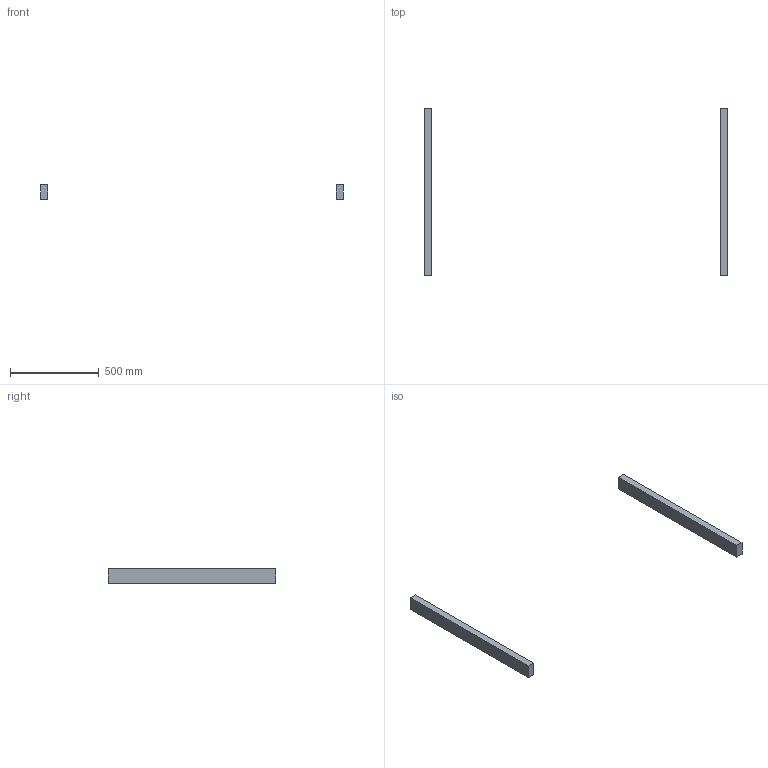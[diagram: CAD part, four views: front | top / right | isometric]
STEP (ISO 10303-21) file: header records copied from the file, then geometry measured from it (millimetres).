
FILE_DESCRIPTION(/* description */ (''),/* implementation_level */ '2;1');
FILE_NAME(/* name */ '2.frame-gantry#2.1#HFS5-4080-940',/* time_stamp */ '2014-12-01T20:11:35+01:00',/* author */ (''),/* organization */ (''),/* preprocessor_version */ 'ST-DEVELOPER v14',/* originating_system */ '',/* authorisation */ '');
FILE_SCHEMA (('AUTOMOTIVE_DESIGN'));
Length unit declared in the file: millimetre
Products named in the file (1): Document
Bounding box: 1700 x 940 x 80 mm (x, y, z)
Volume: 6016000 mm3; surface area: 464000 mm2
Topology: 2 solids, 2 shells, 12 faces, 24 edges, 16 vertices
Faces by surface type: plane 12
Entity records: 571 total; most frequent: CARTESIAN_POINT 174, B_SPLINE_CURVE_WITH_KNOTS 72, ORIENTED_EDGE 48, PCURVE 48, DEFINITIONAL_REPRESENTATION 48, SURFACE_CURVE 24, EDGE_CURVE 24, VERTEX_POINT 16
